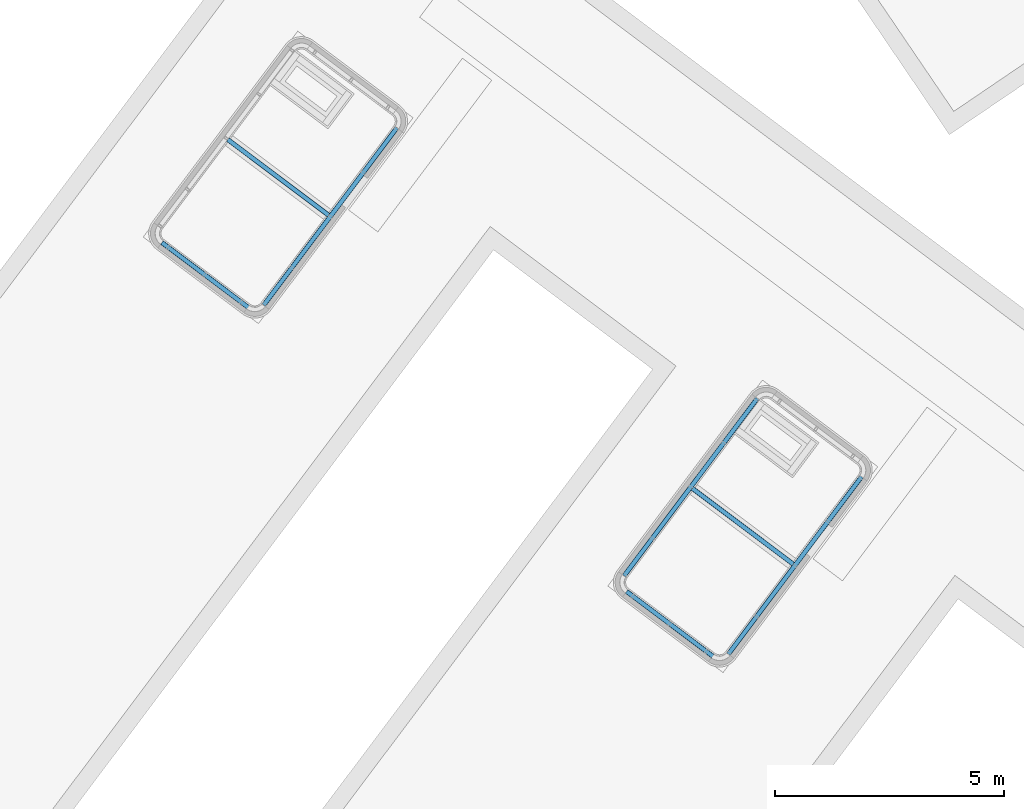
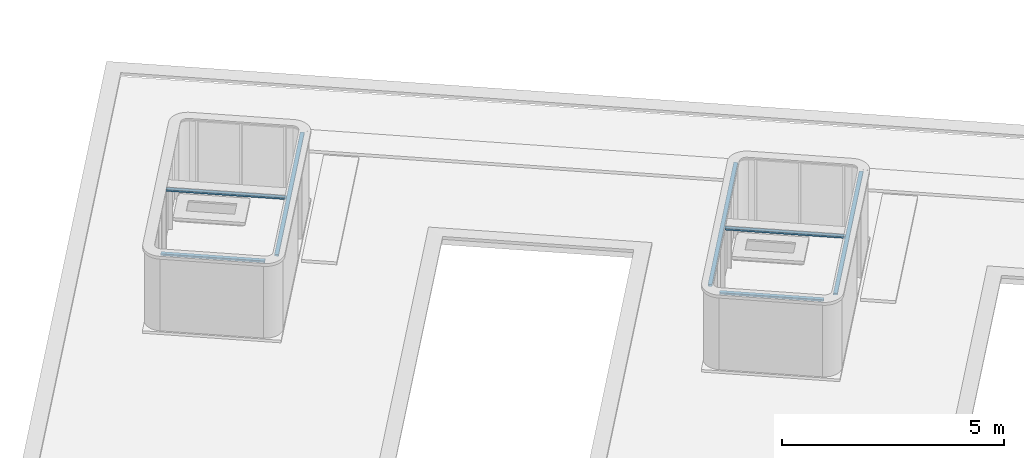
# One storey, part 16 of 28: 7 beams.
"""IFC2X3 building model written with IfcOpenShell, lengths in metres."""

from ifc_helpers import new_model, entity, si_unit, converted_unit, derived_unit, direction, frame, frame_2d, origin, place, context, subcontext, project, spatial, polyline, circle_curve, parameter, trimmed, segment, composite_curve, outline, extrude, material, type_object, element, save


model = new_model("IFC2X3")

# Units and contexts
model_context = context("Model", 3, precision=1e-05, world=origin(), true_north=direction((6.123031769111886e-17, 1.0)))
body_context = subcontext(model_context, "Body", "Model", "MODEL_VIEW")
ifc_project = project(units=[si_unit("LENGTHUNIT", "METRE"), si_unit("AREAUNIT", "SQUARE_METRE"), si_unit("VOLUMEUNIT", "CUBIC_METRE"), converted_unit("PLANEANGLEUNIT", "DEGREE", entity("IfcRatioMeasure", 0.017453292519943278), si_unit("PLANEANGLEUNIT", "RADIAN"), dimensions=[0, 0, 0, 0, 0, 0, 0]), si_unit("MASSUNIT", "GRAM", prefix="KILO"), derived_unit("MASSDENSITYUNIT", [(si_unit("MASSUNIT", "GRAM", prefix="KILO"), 1), (si_unit("LENGTHUNIT", "METRE"), -3)]), derived_unit("IONCONCENTRATIONUNIT", [(si_unit("MASSUNIT", "GRAM", prefix="KILO"), 1), (si_unit("LENGTHUNIT", "METRE"), -3)]), derived_unit("MOMENTOFINERTIAUNIT", [(si_unit("LENGTHUNIT", "METRE"), 4)]), si_unit("TIMEUNIT", "SECOND"), si_unit("FREQUENCYUNIT", "HERTZ"), si_unit("THERMODYNAMICTEMPERATUREUNIT", "DEGREE_CELSIUS"), derived_unit("THERMALTRANSMITTANCEUNIT", [(si_unit("MASSUNIT", "GRAM", prefix="KILO"), 1), (si_unit("THERMODYNAMICTEMPERATUREUNIT", "KELVIN"), -1), (si_unit("TIMEUNIT", "SECOND"), -3)]), derived_unit("THERMALCONDUCTANCEUNIT", [(si_unit("MASSUNIT", "GRAM", prefix="KILO"), 1), (si_unit("THERMODYNAMICTEMPERATUREUNIT", "KELVIN"), -1), (si_unit("TIMEUNIT", "SECOND"), -3), (si_unit("LENGTHUNIT", "METRE"), 1)]), derived_unit("VOLUMETRICFLOWRATEUNIT", [(si_unit("LENGTHUNIT", "METRE"), 3), (si_unit("TIMEUNIT", "SECOND"), -1)]), derived_unit("MASSFLOWRATEUNIT", [(si_unit("MASSUNIT", "GRAM", prefix="KILO"), 1), (si_unit("TIMEUNIT", "SECOND"), -1)]), derived_unit("ROTATIONALFREQUENCYUNIT", [(si_unit("TIMEUNIT", "SECOND"), -1)]), si_unit("ELECTRICCURRENTUNIT", "AMPERE"), si_unit("ELECTRICVOLTAGEUNIT", "VOLT"), si_unit("POWERUNIT", "WATT"), si_unit("FORCEUNIT", "NEWTON", prefix="KILO"), si_unit("ILLUMINANCEUNIT", "LUX"), si_unit("LUMINOUSFLUXUNIT", "LUMEN"), si_unit("LUMINOUSINTENSITYUNIT", "CANDELA"), derived_unit("USERDEFINED", [(si_unit("MASSUNIT", "GRAM", prefix="KILO"), -1), (si_unit("LENGTHUNIT", "METRE"), -2), (si_unit("TIMEUNIT", "SECOND"), 3), (si_unit("LUMINOUSFLUXUNIT", "LUMEN"), 1)]), derived_unit("USERDEFINED", [(si_unit("MASSUNIT", "GRAM", prefix="KILO"), 1), (si_unit("TIMEUNIT", "SECOND"), -3), (si_unit("LENGTHUNIT", "METRE"), 3), (si_unit("ELECTRICCURRENTUNIT", "AMPERE"), -2)]), derived_unit("SOUNDPOWERUNIT", [(si_unit("MASSUNIT", "GRAM", prefix="KILO"), 1), (si_unit("TIMEUNIT", "SECOND"), -3), (si_unit("LENGTHUNIT", "METRE"), 2)]), derived_unit("SOUNDPRESSUREUNIT", [(si_unit("MASSUNIT", "GRAM", prefix="KILO"), 1), (si_unit("LENGTHUNIT", "METRE"), -1), (si_unit("TIMEUNIT", "SECOND"), -2)]), derived_unit("LINEARVELOCITYUNIT", [(si_unit("LENGTHUNIT", "METRE"), 1), (si_unit("TIMEUNIT", "SECOND"), -1)]), si_unit("PRESSUREUNIT", "PASCAL"), derived_unit("USERDEFINED", [(si_unit("MASSUNIT", "GRAM", prefix="KILO"), 1), (si_unit("LENGTHUNIT", "METRE"), -2), (si_unit("TIMEUNIT", "SECOND"), -2)]), derived_unit("LINEARFORCEUNIT", [(si_unit("MASSUNIT", "GRAM", prefix="KILO"), 1), (si_unit("TIMEUNIT", "SECOND"), -2)]), derived_unit("PLANARFORCEUNIT", [(si_unit("MASSUNIT", "GRAM", prefix="KILO"), 1), (si_unit("LENGTHUNIT", "METRE"), -1), (si_unit("TIMEUNIT", "SECOND"), -2)]), derived_unit("SPECIFICHEATCAPACITYUNIT", [(si_unit("THERMODYNAMICTEMPERATUREUNIT", "KELVIN"), -1), (si_unit("LENGTHUNIT", "METRE"), 2), (si_unit("TIMEUNIT", "SECOND"), -2)]), derived_unit("HEATINGVALUEUNIT", [(si_unit("LENGTHUNIT", "METRE"), 2), (si_unit("TIMEUNIT", "SECOND"), -2)]), derived_unit("VAPORPERMEABILITYUNIT", [(si_unit("LENGTHUNIT", "METRE"), -1), (si_unit("TIMEUNIT", "SECOND"), 1)]), derived_unit("DYNAMICVISCOSITYUNIT", [(si_unit("MASSUNIT", "GRAM", prefix="KILO"), 1), (si_unit("TIMEUNIT", "SECOND"), -1), (si_unit("LENGTHUNIT", "METRE"), -1)]), derived_unit("THERMALEXPANSIONCOEFFICIENTUNIT", [(si_unit("THERMODYNAMICTEMPERATUREUNIT", "KELVIN"), -1)]), derived_unit("MODULUSOFELASTICITYUNIT", [(si_unit("MASSUNIT", "GRAM", prefix="KILO"), 1), (si_unit("LENGTHUNIT", "METRE"), -1), (si_unit("TIMEUNIT", "SECOND"), -2)]), derived_unit("ISOTHERMALMOISTURECAPACITYUNIT", [(si_unit("LENGTHUNIT", "METRE"), 3), (si_unit("MASSUNIT", "GRAM", prefix="KILO"), -1)]), derived_unit("MOISTUREDIFFUSIVITYUNIT", [(si_unit("TIMEUNIT", "SECOND"), -1), (si_unit("LENGTHUNIT", "METRE"), 2)])], contexts=[model_context])

# Site, building, storey
site_placement = place(None, frame((0.0, 0.0, 235.0), z_axis=(0.0, 0.0, 1.0), x_axis=(-0.7996477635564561, 0.6004693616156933, 0.0)))
site = spatial("IfcSite", under=ifc_project, at=site_placement, Name="Default", CompositionType="ELEMENT")
building_placement = place(site_placement, origin())
building = spatial("IfcBuilding", under=site, at=building_placement, CompositionType="ELEMENT")
storey_placement = place(building_placement, frame((0.0, 0.0, 3.400000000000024)))
storey = spatial("IfcBuildingStorey", under=building, at=storey_placement, Name="PC- Coberta STR", CompositionType="ELEMENT", Elevation=3.400000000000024)

# Beams
ifc_material = material(Name="Metal - Acero - 345 MPa")
beam_type = type_object("IfcBeamType", Name="STR- V- Acer- RHS- Rectangular- T1:100x50RHS", PredefinedType="NOTDEFINED")
beam_1_placement = place(storey_placement, frame((59.80859017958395, -37.305191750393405, 2.3984047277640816), z_axis=(0.0, 0.0, 1.0), x_axis=(0.0, 1.0, 0.0)))
element("IfcBeam", 1, at=beam_1_placement, inside=storey, type_object=beam_type, material=ifc_material, Name="STR- V- Acer- RHS- Rectangular- T1:100x50RHS", ObjectType="STR- V- Acer- RHS- Rectangular- T1:100x50RHS", context=body_context, shape_type="SweptSolid", body=[
    extrude(outline(composite_curve([segment(trimmed(circle_curve(frame_2d((-0.019000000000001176, -0.043999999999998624), x_axis=(1.0, 0.0)), 0.006), [parameter(180.0000000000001)], [parameter(269.99999999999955)], True, "PARAMETER"), True, "CONTINUOUS"), segment(polyline([(-0.0190000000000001, -0.04999999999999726), (0.01899999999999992, -0.04999999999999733)]), True, "CONTINUOUS"), segment(trimmed(circle_curve(frame_2d((0.018999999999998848, -0.04399999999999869), x_axis=(1.0, 0.0)), 0.006), [parameter(269.99999999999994)], [parameter(1.0177774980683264e-13)], True, "PARAMETER"), True, "CONTINUOUS"), segment(polyline([(0.02499999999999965, -0.0439999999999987), (0.02499999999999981, 0.044000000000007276)]), True, "CONTINUOUS"), segment(trimmed(circle_curve(frame_2d((0.018999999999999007, 0.04400000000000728), x_axis=(1.0, 0.0)), 0.006), [parameter(359.9999999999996)], [parameter(89.99999999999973)], True, "PARAMETER"), True, "CONTINUOUS"), segment(polyline([(0.0190000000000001, 0.050000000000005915), (-0.019000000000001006, 0.050000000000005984)]), True, "CONTINUOUS"), segment(trimmed(circle_curve(frame_2d((-0.019000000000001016, 0.04400000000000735), x_axis=(1.0, 0.0)), 0.006), [parameter(90.00000000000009)], [parameter(180.00000000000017)], True, "PARAMETER"), True, "CONTINUOUS"), segment(polyline([(-0.025000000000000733, 0.04400000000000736), (-0.025000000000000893, -0.04399999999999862)]), True, "CONTINUOUS")], self_intersect=False), holes=[composite_curve([segment(polyline([(0.018999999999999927, -0.04699999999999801), (-0.019000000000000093, -0.04699999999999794)]), True, "CONTINUOUS"), segment(trimmed(circle_curve(frame_2d((-0.01900000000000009, -0.043999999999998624), x_axis=(1.0, 0.0)), 0.003), [parameter(179.99999999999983)], [parameter(269.9999999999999)], True, "PARAMETER"), False, "CONTINUOUS"), segment(polyline([(-0.02200000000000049, -0.04399999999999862), (-0.022000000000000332, 0.04400000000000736)]), True, "CONTINUOUS"), segment(trimmed(circle_curve(frame_2d((-0.01899999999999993, 0.04400000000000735), x_axis=(1.0, 0.0)), 0.003), [parameter(90.00000000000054)], [parameter(180.0000000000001)], True, "PARAMETER"), False, "CONTINUOUS"), segment(polyline([(-0.018999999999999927, 0.047000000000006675), (0.01899999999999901, 0.047000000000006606)]), True, "CONTINUOUS"), segment(trimmed(circle_curve(frame_2d((0.018999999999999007, 0.04400000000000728), x_axis=(1.0, 0.0)), 0.003), [parameter(0.0)], [parameter(90.00000000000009)], True, "PARAMETER"), False, "CONTINUOUS"), segment(polyline([(0.021999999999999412, 0.044000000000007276), (0.021999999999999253, -0.0439999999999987)]), True, "CONTINUOUS"), segment(trimmed(circle_curve(frame_2d((0.018999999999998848, -0.04399999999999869), x_axis=(1.0, 0.0)), 0.003), [parameter(270.00000000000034)], [parameter(5.088887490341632e-13)], True, "PARAMETER"), False, "CONTINUOUS")], self_intersect=False)]), frame((0.0, -0.05159527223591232, 0.02659527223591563), z_axis=(1.0, 0.0, 0.0), x_axis=(0.0, 0.0, 1.0)), (0.0, 0.0, 1.0), 4.846999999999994),
])
beam_2_placement = place(storey_placement, frame((56.958590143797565, -37.30519175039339, 2.3984047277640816), z_axis=(0.0, 0.0, 1.0), x_axis=(0.0, 1.0, 0.0)))
element("IfcBeam", 2, at=beam_2_placement, inside=storey, type_object=beam_type, material=ifc_material, Name="STR- V- Acer- RHS- Rectangular- T1:100x50RHS", ObjectType="STR- V- Acer- RHS- Rectangular- T1:100x50RHS", context=body_context, shape_type="SweptSolid", body=[
    extrude(outline(composite_curve([segment(polyline([(-0.044000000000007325, -0.025000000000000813), (0.043999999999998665, -0.025000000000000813)]), True, "CONTINUOUS"), segment(trimmed(circle_curve(frame_2d((0.04399999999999, -0.019000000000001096), x_axis=(0.0, 1.0)), 0.006), [parameter(179.99999999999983)], [parameter(269.9999999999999)], True, "PARAMETER"), True, "CONTINUOUS"), segment(polyline([(0.0499999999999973, -0.019000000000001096), (0.0499999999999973, 0.01900000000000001)]), True, "CONTINUOUS"), segment(trimmed(circle_curve(frame_2d((0.04399999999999, 0.018999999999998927), x_axis=(0.0, 1.0)), 0.006), [parameter(270.0000000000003)], [parameter(4.0711099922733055e-13)], True, "PARAMETER"), True, "CONTINUOUS"), segment(polyline([(0.043999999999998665, 0.02499999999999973), (-0.044000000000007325, 0.02499999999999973)]), True, "CONTINUOUS"), segment(trimmed(circle_curve(frame_2d((-0.044000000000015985, 0.018999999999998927), x_axis=(0.0, 1.0)), 0.006), [parameter(359.9999999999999)], [parameter(90.00000000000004)], True, "PARAMETER"), True, "CONTINUOUS"), segment(polyline([(-0.050000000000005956, 0.01900000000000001), (-0.050000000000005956, -0.01900000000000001)]), True, "CONTINUOUS"), segment(trimmed(circle_curve(frame_2d((-0.044000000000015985, -0.019000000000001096), x_axis=(0.0, 1.0)), 0.006), [parameter(90.00000000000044)], [parameter(179.9999999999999)], True, "PARAMETER"), True, "CONTINUOUS")], self_intersect=False), holes=[composite_curve([segment(trimmed(circle_curve(frame_2d((-0.044000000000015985, 0.018999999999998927), x_axis=(0.0, 1.0)), 0.003), [parameter(359.9999999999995)], [parameter(89.99999999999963)], True, "PARAMETER"), False, "CONTINUOUS"), segment(polyline([(-0.044000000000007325, 0.021999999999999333), (0.043999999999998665, 0.021999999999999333)]), True, "CONTINUOUS"), segment(trimmed(circle_curve(frame_2d((0.04399999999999, 0.018999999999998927), x_axis=(0.0, 1.0)), 0.003), [parameter(269.9999999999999)], [parameter(0.0)], True, "PARAMETER"), False, "CONTINUOUS"), segment(polyline([(0.04699999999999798, 0.018999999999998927), (0.04699999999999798, -0.01900000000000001)]), True, "CONTINUOUS"), segment(trimmed(circle_curve(frame_2d((0.04399999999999, -0.01900000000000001), x_axis=(0.0, 1.0)), 0.003), [parameter(179.9999999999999)], [parameter(269.99999999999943)], True, "PARAMETER"), False, "CONTINUOUS"), segment(polyline([(0.043999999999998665, -0.02200000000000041), (-0.044000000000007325, -0.02200000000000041)]), True, "CONTINUOUS"), segment(trimmed(circle_curve(frame_2d((-0.044000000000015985, -0.01900000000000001), x_axis=(0.0, 1.0)), 0.003), [parameter(90.00000000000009)], [parameter(180.00000000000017)], True, "PARAMETER"), False, "CONTINUOUS"), segment(polyline([(-0.047000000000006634, -0.01900000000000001), (-0.047000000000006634, 0.01900000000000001)]), True, "CONTINUOUS")], self_intersect=False)]), frame((0.0, -0.051595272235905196, 0.02659527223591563), z_axis=(1.0, 0.0, 0.0), x_axis=(0.0, 1.0, 0.0)), (0.0, 0.0, 1.0), 4.846999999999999),
])
beam_3_placement = place(storey_placement, frame((57.24320475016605, -32.26678704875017, 2.4515952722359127), z_axis=(0.0, 0.0, 1.0), x_axis=(-1.0, 0.0, 0.0)))
element("IfcBeam", 3, at=beam_3_placement, inside=storey, type_object=beam_type, material=ifc_material, Name="STR- V- Acer- RHS- Rectangular- T1:100x50RHS", ObjectType="STR- V- Acer- RHS- Rectangular- T1:100x50RHS", context=body_context, shape_type="SweptSolid", body=[
    extrude(outline(composite_curve([segment(polyline([(-0.04400000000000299, -0.025000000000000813), (0.043999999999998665, -0.025000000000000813)]), True, "CONTINUOUS"), segment(trimmed(circle_curve(frame_2d((0.04399999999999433, -0.019000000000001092), x_axis=(0.0, 1.0)), 0.006), [parameter(179.99999999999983)], [parameter(269.9999999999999)], True, "PARAMETER"), True, "CONTINUOUS"), segment(polyline([(0.0499999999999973, -0.019000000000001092), (0.0499999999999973, 0.01900000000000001)]), True, "CONTINUOUS"), segment(trimmed(circle_curve(frame_2d((0.04399999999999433, 0.018999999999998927), x_axis=(0.0, 1.0)), 0.006), [parameter(270.0000000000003)], [parameter(4.0711099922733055e-13)], True, "PARAMETER"), True, "CONTINUOUS"), segment(polyline([(0.043999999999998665, 0.02499999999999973), (-0.04400000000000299, 0.02499999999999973)]), True, "CONTINUOUS"), segment(trimmed(circle_curve(frame_2d((-0.04400000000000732, 0.018999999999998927), x_axis=(0.0, 1.0)), 0.006), [parameter(359.9999999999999)], [parameter(90.00000000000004)], True, "PARAMETER"), True, "CONTINUOUS"), segment(polyline([(-0.05000000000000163, 0.01900000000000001), (-0.05000000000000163, -0.01900000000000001)]), True, "CONTINUOUS"), segment(trimmed(circle_curve(frame_2d((-0.04400000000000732, -0.019000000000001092), x_axis=(0.0, 1.0)), 0.006), [parameter(90.00000000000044)], [parameter(179.9999999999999)], True, "PARAMETER"), True, "CONTINUOUS")], self_intersect=False), holes=[composite_curve([segment(trimmed(circle_curve(frame_2d((-0.04400000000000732, 0.018999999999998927), x_axis=(0.0, 1.0)), 0.003), [parameter(359.9999999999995)], [parameter(89.99999999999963)], True, "PARAMETER"), False, "CONTINUOUS"), segment(polyline([(-0.04400000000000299, 0.02199999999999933), (0.04399999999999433, 0.02199999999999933)]), True, "CONTINUOUS"), segment(trimmed(circle_curve(frame_2d((0.04399999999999, 0.018999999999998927), x_axis=(0.0, 1.0)), 0.003), [parameter(269.9999999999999)], [parameter(0.0)], True, "PARAMETER"), False, "CONTINUOUS"), segment(polyline([(0.04699999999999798, 0.018999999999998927), (0.04699999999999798, -0.01900000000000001)]), True, "CONTINUOUS"), segment(trimmed(circle_curve(frame_2d((0.04399999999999, -0.01900000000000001), x_axis=(0.0, 1.0)), 0.003), [parameter(179.9999999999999)], [parameter(269.99999999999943)], True, "PARAMETER"), False, "CONTINUOUS"), segment(polyline([(0.04399999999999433, -0.022000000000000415), (-0.04400000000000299, -0.022000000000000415)]), True, "CONTINUOUS"), segment(trimmed(circle_curve(frame_2d((-0.04400000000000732, -0.01900000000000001), x_axis=(0.0, 1.0)), 0.003), [parameter(90.00000000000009)], [parameter(180.00000000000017)], True, "PARAMETER"), False, "CONTINUOUS"), segment(polyline([(-0.04700000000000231, -0.01900000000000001), (-0.04700000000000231, 0.01900000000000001)]), True, "CONTINUOUS")], self_intersect=False)]), frame((-2.3668868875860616, -0.051595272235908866, -0.02659527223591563), z_axis=(1.0, 0.0, 0.0), x_axis=(0.0, 1.0, 0.0)), (0.0, 0.0, 1.0), 2.366886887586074),
])
beam_4_placement = place(storey_placement, frame((69.65859014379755, -37.30519175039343, 2.3984047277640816), z_axis=(0.0, 0.0, 1.0), x_axis=(0.0, 1.0, 0.0)))
element("IfcBeam", 4, at=beam_4_placement, inside=storey, type_object=beam_type, material=ifc_material, Name="STR- V- Acer- RHS- Rectangular- T1:100x50RHS", ObjectType="STR- V- Acer- RHS- Rectangular- T1:100x50RHS", context=body_context, shape_type="SweptSolid", body=[
    extrude(outline(composite_curve([segment(polyline([(-0.04399999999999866, -0.025000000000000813), (0.044000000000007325, -0.025000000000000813)]), True, "CONTINUOUS"), segment(trimmed(circle_curve(frame_2d((0.043999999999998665, -0.019000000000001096), x_axis=(0.0, 1.0)), 0.006), [parameter(179.99999999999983)], [parameter(269.9999999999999)], True, "PARAMETER"), True, "CONTINUOUS"), segment(polyline([(0.05000000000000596, -0.019000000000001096), (0.05000000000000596, 0.01900000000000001)]), True, "CONTINUOUS"), segment(trimmed(circle_curve(frame_2d((0.043999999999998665, 0.018999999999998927), x_axis=(0.0, 1.0)), 0.006), [parameter(270.0000000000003)], [parameter(4.0711099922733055e-13)], True, "PARAMETER"), True, "CONTINUOUS"), segment(polyline([(0.044000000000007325, 0.02499999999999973), (-0.04399999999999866, 0.02499999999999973)]), True, "CONTINUOUS"), segment(trimmed(circle_curve(frame_2d((-0.04400000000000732, 0.018999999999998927), x_axis=(0.0, 1.0)), 0.006), [parameter(359.9999999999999)], [parameter(90.00000000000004)], True, "PARAMETER"), True, "CONTINUOUS"), segment(polyline([(-0.04999999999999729, 0.01900000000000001), (-0.04999999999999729, -0.01900000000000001)]), True, "CONTINUOUS"), segment(trimmed(circle_curve(frame_2d((-0.04400000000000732, -0.019000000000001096), x_axis=(0.0, 1.0)), 0.006), [parameter(90.00000000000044)], [parameter(179.9999999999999)], True, "PARAMETER"), True, "CONTINUOUS")], self_intersect=False), holes=[composite_curve([segment(trimmed(circle_curve(frame_2d((-0.04400000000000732, 0.018999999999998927), x_axis=(0.0, 1.0)), 0.003), [parameter(359.9999999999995)], [parameter(89.99999999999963)], True, "PARAMETER"), False, "CONTINUOUS"), segment(polyline([(-0.04399999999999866, 0.021999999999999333), (0.044000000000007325, 0.021999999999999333)]), True, "CONTINUOUS"), segment(trimmed(circle_curve(frame_2d((0.043999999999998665, 0.018999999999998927), x_axis=(0.0, 1.0)), 0.003), [parameter(269.9999999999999)], [parameter(0.0)], True, "PARAMETER"), False, "CONTINUOUS"), segment(polyline([(0.04700000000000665, 0.018999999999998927), (0.04700000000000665, -0.01900000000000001)]), True, "CONTINUOUS"), segment(trimmed(circle_curve(frame_2d((0.043999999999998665, -0.01900000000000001), x_axis=(0.0, 1.0)), 0.003), [parameter(179.9999999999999)], [parameter(269.99999999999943)], True, "PARAMETER"), False, "CONTINUOUS"), segment(polyline([(0.044000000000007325, -0.02200000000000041), (-0.04399999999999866, -0.02200000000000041)]), True, "CONTINUOUS"), segment(trimmed(circle_curve(frame_2d((-0.04400000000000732, -0.01900000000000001), x_axis=(0.0, 1.0)), 0.003), [parameter(90.00000000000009)], [parameter(180.00000000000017)], True, "PARAMETER"), False, "CONTINUOUS"), segment(polyline([(-0.04699999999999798, -0.01900000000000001), (-0.04699999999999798, 0.01900000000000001)]), True, "CONTINUOUS")], self_intersect=False)]), frame((0.0, -0.05159527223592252, 0.02659527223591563), z_axis=(1.0, 0.0, 0.0), x_axis=(0.0, 1.0, 0.0)), (0.0, 0.0, 1.0), 4.846999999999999),
])
beam_5_placement = place(storey_placement, frame((69.94320475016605, -32.2667870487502, 2.451595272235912), z_axis=(0.0, 0.0, 1.0), x_axis=(-1.0, 0.0, 0.0)))
element("IfcBeam", 5, at=beam_5_placement, inside=storey, type_object=beam_type, material=ifc_material, Name="STR- V- Acer- RHS- Rectangular- T1:100x50RHS", ObjectType="STR- V- Acer- RHS- Rectangular- T1:100x50RHS", context=body_context, shape_type="SweptSolid", body=[
    extrude(outline(composite_curve([segment(polyline([(-0.04399999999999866, -0.025000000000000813), (0.04400000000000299, -0.025000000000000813)]), True, "CONTINUOUS"), segment(trimmed(circle_curve(frame_2d((0.04399999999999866, -0.019000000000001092), x_axis=(0.0, 1.0)), 0.006), [parameter(179.99999999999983)], [parameter(269.9999999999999)], True, "PARAMETER"), True, "CONTINUOUS"), segment(polyline([(0.050000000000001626, -0.019000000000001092), (0.050000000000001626, 0.01900000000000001)]), True, "CONTINUOUS"), segment(trimmed(circle_curve(frame_2d((0.04399999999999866, 0.018999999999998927), x_axis=(0.0, 1.0)), 0.006), [parameter(270.0000000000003)], [parameter(4.0711099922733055e-13)], True, "PARAMETER"), True, "CONTINUOUS"), segment(polyline([(0.04400000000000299, 0.02499999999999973), (-0.04399999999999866, 0.02499999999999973)]), True, "CONTINUOUS"), segment(trimmed(circle_curve(frame_2d((-0.04400000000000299, 0.018999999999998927), x_axis=(0.0, 1.0)), 0.006), [parameter(359.9999999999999)], [parameter(90.00000000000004)], True, "PARAMETER"), True, "CONTINUOUS"), segment(polyline([(-0.049999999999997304, 0.01900000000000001), (-0.049999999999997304, -0.01900000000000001)]), True, "CONTINUOUS"), segment(trimmed(circle_curve(frame_2d((-0.04400000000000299, -0.019000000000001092), x_axis=(0.0, 1.0)), 0.006), [parameter(90.00000000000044)], [parameter(179.9999999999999)], True, "PARAMETER"), True, "CONTINUOUS")], self_intersect=False), holes=[composite_curve([segment(trimmed(circle_curve(frame_2d((-0.04400000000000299, 0.018999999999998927), x_axis=(0.0, 1.0)), 0.003), [parameter(359.9999999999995)], [parameter(89.99999999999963)], True, "PARAMETER"), False, "CONTINUOUS"), segment(polyline([(-0.04399999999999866, 0.02199999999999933), (0.04399999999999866, 0.02199999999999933)]), True, "CONTINUOUS"), segment(trimmed(circle_curve(frame_2d((0.04399999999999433, 0.018999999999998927), x_axis=(0.0, 1.0)), 0.003), [parameter(269.9999999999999)], [parameter(0.0)], True, "PARAMETER"), False, "CONTINUOUS"), segment(polyline([(0.04700000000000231, 0.018999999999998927), (0.04700000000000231, -0.01900000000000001)]), True, "CONTINUOUS"), segment(trimmed(circle_curve(frame_2d((0.04399999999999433, -0.01900000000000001), x_axis=(0.0, 1.0)), 0.003), [parameter(179.9999999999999)], [parameter(269.99999999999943)], True, "PARAMETER"), False, "CONTINUOUS"), segment(polyline([(0.04399999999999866, -0.022000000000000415), (-0.04399999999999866, -0.022000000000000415)]), True, "CONTINUOUS"), segment(trimmed(circle_curve(frame_2d((-0.04400000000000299, -0.01900000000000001), x_axis=(0.0, 1.0)), 0.003), [parameter(90.00000000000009)], [parameter(180.00000000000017)], True, "PARAMETER"), False, "CONTINUOUS"), segment(polyline([(-0.04699999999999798, -0.01900000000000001), (-0.04699999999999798, 0.01900000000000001)]), True, "CONTINUOUS")], self_intersect=False)]), frame((-2.36688688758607, -0.051595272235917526, -0.02659527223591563), z_axis=(1.0, 0.0, 0.0), x_axis=(0.0, 1.0, 0.0)), (0.0, 0.0, 1.0), 2.366886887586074),
])
beam_6_placement = place(storey_placement, frame((57.06018537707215, -34.93178702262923, 2.2984047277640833)))
element("IfcBeam", 6, at=beam_6_placement, inside=storey, type_object=beam_type, material=ifc_material, Name="STR- V- Acer- RHS- Rectangular- T1:100x50RHS", ObjectType="STR- V- Acer- RHS- Rectangular- T1:100x50RHS", context=body_context, shape_type="SweptSolid", body=[
    extrude(outline(composite_curve([segment(polyline([(-0.044000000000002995, -0.02499999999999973), (0.043999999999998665, -0.02499999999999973)]), True, "CONTINUOUS"), segment(trimmed(circle_curve(frame_2d((0.043999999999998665, -0.01900000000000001), x_axis=(0.0, 1.0)), 0.006), [parameter(179.99999999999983)], [parameter(269.9999999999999)], True, "PARAMETER"), True, "CONTINUOUS"), segment(polyline([(0.0499999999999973, -0.01900000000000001), (0.0499999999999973, 0.0190000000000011)]), True, "CONTINUOUS"), segment(trimmed(circle_curve(frame_2d((0.043999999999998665, 0.01900000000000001), x_axis=(0.0, 1.0)), 0.006), [parameter(270.0000000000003)], [parameter(4.0711099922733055e-13)], True, "PARAMETER"), True, "CONTINUOUS"), segment(polyline([(0.043999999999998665, 0.025000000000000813), (-0.044000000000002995, 0.025000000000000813)]), True, "CONTINUOUS"), segment(trimmed(circle_curve(frame_2d((-0.044000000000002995, 0.01900000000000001), x_axis=(0.0, 1.0)), 0.006), [parameter(359.9999999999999)], [parameter(90.00000000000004)], True, "PARAMETER"), True, "CONTINUOUS"), segment(polyline([(-0.050000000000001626, 0.0190000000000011), (-0.050000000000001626, -0.018999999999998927)]), True, "CONTINUOUS"), segment(trimmed(circle_curve(frame_2d((-0.044000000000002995, -0.01900000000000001), x_axis=(0.0, 1.0)), 0.006), [parameter(90.00000000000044)], [parameter(179.9999999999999)], True, "PARAMETER"), True, "CONTINUOUS")], self_intersect=False), holes=[composite_curve([segment(trimmed(circle_curve(frame_2d((-0.044000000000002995, 0.01900000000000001), x_axis=(0.0, 1.0)), 0.003), [parameter(359.9999999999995)], [parameter(89.99999999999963)], True, "PARAMETER"), False, "CONTINUOUS"), segment(polyline([(-0.044000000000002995, 0.022000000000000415), (0.043999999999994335, 0.022000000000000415)]), True, "CONTINUOUS"), segment(trimmed(circle_curve(frame_2d((0.043999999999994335, 0.01900000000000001), x_axis=(0.0, 1.0)), 0.003), [parameter(269.9999999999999)], [parameter(0.0)], True, "PARAMETER"), False, "CONTINUOUS"), segment(polyline([(0.046999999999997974, 0.01900000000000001), (0.046999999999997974, -0.018999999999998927)]), True, "CONTINUOUS"), segment(trimmed(circle_curve(frame_2d((0.043999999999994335, -0.018999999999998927), x_axis=(0.0, 1.0)), 0.003), [parameter(179.9999999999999)], [parameter(269.99999999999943)], True, "PARAMETER"), False, "CONTINUOUS"), segment(polyline([(0.043999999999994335, -0.02199999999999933), (-0.044000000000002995, -0.02199999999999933)]), True, "CONTINUOUS"), segment(trimmed(circle_curve(frame_2d((-0.044000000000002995, -0.018999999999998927), x_axis=(0.0, 1.0)), 0.003), [parameter(90.00000000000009)], [parameter(180.00000000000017)], True, "PARAMETER"), False, "CONTINUOUS"), segment(polyline([(-0.04700000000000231, -0.018999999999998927), (-0.04700000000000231, 0.0190000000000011)]), True, "CONTINUOUS")], self_intersect=False)]), frame((0.0, 0.05159527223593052, 0.026595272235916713), z_axis=(1.0, 0.0, 0.0), x_axis=(0.0, 1.0, 0.0)), (0.0, 0.0, 1.0), 2.750000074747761),
])
beam_7_placement = place(storey_placement, frame((69.76018537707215, -34.931787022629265, 2.2984047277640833)))
element("IfcBeam", 7, at=beam_7_placement, inside=storey, type_object=beam_type, material=ifc_material, Name="STR- V- Acer- RHS- Rectangular- T1:100x50RHS", ObjectType="STR- V- Acer- RHS- Rectangular- T1:100x50RHS", context=body_context, shape_type="SweptSolid", body=[
    extrude(outline(composite_curve([segment(polyline([(-0.043999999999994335, -0.02499999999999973), (0.044000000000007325, -0.02499999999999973)]), True, "CONTINUOUS"), segment(trimmed(circle_curve(frame_2d((0.044000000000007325, -0.01900000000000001), x_axis=(0.0, 1.0)), 0.006), [parameter(179.99999999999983)], [parameter(269.9999999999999)], True, "PARAMETER"), True, "CONTINUOUS"), segment(polyline([(0.050000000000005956, -0.01900000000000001), (0.050000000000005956, 0.0190000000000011)]), True, "CONTINUOUS"), segment(trimmed(circle_curve(frame_2d((0.044000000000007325, 0.01900000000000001), x_axis=(0.0, 1.0)), 0.006), [parameter(270.0000000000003)], [parameter(4.0711099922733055e-13)], True, "PARAMETER"), True, "CONTINUOUS"), segment(polyline([(0.044000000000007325, 0.025000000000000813), (-0.043999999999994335, 0.025000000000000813)]), True, "CONTINUOUS"), segment(trimmed(circle_curve(frame_2d((-0.043999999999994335, 0.01900000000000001), x_axis=(0.0, 1.0)), 0.006), [parameter(359.9999999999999)], [parameter(90.00000000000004)], True, "PARAMETER"), True, "CONTINUOUS"), segment(polyline([(-0.04999999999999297, 0.0190000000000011), (-0.04999999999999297, -0.018999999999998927)]), True, "CONTINUOUS"), segment(trimmed(circle_curve(frame_2d((-0.043999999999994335, -0.01900000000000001), x_axis=(0.0, 1.0)), 0.006), [parameter(90.00000000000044)], [parameter(179.9999999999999)], True, "PARAMETER"), True, "CONTINUOUS")], self_intersect=False), holes=[composite_curve([segment(trimmed(circle_curve(frame_2d((-0.043999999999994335, 0.01900000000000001), x_axis=(0.0, 1.0)), 0.003), [parameter(359.9999999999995)], [parameter(89.99999999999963)], True, "PARAMETER"), False, "CONTINUOUS"), segment(polyline([(-0.043999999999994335, 0.022000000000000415), (0.044000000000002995, 0.022000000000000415)]), True, "CONTINUOUS"), segment(trimmed(circle_curve(frame_2d((0.044000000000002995, 0.01900000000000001), x_axis=(0.0, 1.0)), 0.003), [parameter(269.9999999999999)], [parameter(0.0)], True, "PARAMETER"), False, "CONTINUOUS"), segment(polyline([(0.047000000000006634, 0.01900000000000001), (0.047000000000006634, -0.018999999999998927)]), True, "CONTINUOUS"), segment(trimmed(circle_curve(frame_2d((0.044000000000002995, -0.018999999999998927), x_axis=(0.0, 1.0)), 0.003), [parameter(179.9999999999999)], [parameter(269.99999999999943)], True, "PARAMETER"), False, "CONTINUOUS"), segment(polyline([(0.044000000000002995, -0.02199999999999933), (-0.043999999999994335, -0.02199999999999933)]), True, "CONTINUOUS"), segment(trimmed(circle_curve(frame_2d((-0.043999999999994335, -0.018999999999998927), x_axis=(0.0, 1.0)), 0.003), [parameter(90.00000000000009)], [parameter(180.00000000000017)], True, "PARAMETER"), False, "CONTINUOUS"), segment(polyline([(-0.04699999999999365, -0.018999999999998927), (-0.04699999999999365, 0.0190000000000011)]), True, "CONTINUOUS")], self_intersect=False)]), frame((0.0, 0.05159527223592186, 0.026595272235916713), z_axis=(1.0, 0.0, 0.0), x_axis=(0.0, 1.0, 0.0)), (0.0, 0.0, 1.0), 2.750000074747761),
])

save(model, "model.ifc")
